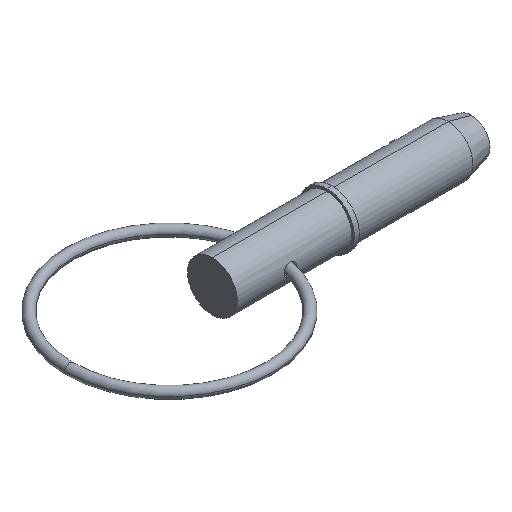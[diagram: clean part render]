
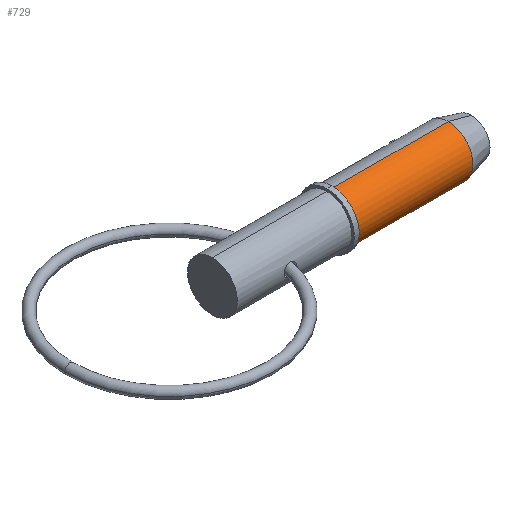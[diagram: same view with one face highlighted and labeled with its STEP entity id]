
A CAD part, isometric view. The second image highlights one B-rep face of the part: STEP entity #729.
In plain terms, the highlighted cylindrical face has radius 3.97 mm (diameter 7.94 mm), a partial arc.
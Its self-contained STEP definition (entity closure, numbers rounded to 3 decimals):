
#10 = AXIS2_PLACEMENT_3D ( 'NONE', #841, #904, #384 ) ;
#36 = DIRECTION ( 'NONE',  ( 1., 0., 0. ) ) ;
#46 = EDGE_CURVE ( 'NONE', #503, #685, #341, .T. ) ;
#90 = CARTESIAN_POINT ( 'NONE',  ( 0., 0., 3.97 ) ) ;
#134 = ORIENTED_EDGE ( 'NONE', *, *, #999, .F. ) ;
#148 = DIRECTION ( 'NONE',  ( 1., 0., 0. ) ) ;
#168 = DIRECTION ( 'NONE',  ( 1., 0., 0. ) ) ;
#201 = EDGE_LOOP ( 'NONE', ( #134, #239, #434, #834 ) ) ;
#239 = ORIENTED_EDGE ( 'NONE', *, *, #819, .T. ) ;
#258 = CYLINDRICAL_SURFACE ( 'NONE', #683, 3.97 ) ;
#306 = VECTOR ( 'NONE', #720, 1000. ) ;
#341 = CIRCLE ( 'NONE', #538, 3.97 ) ;
#354 = DIRECTION ( 'NONE',  ( 0., 0., -1. ) ) ;
#384 = DIRECTION ( 'NONE',  ( 0., 0., -1. ) ) ;
#394 = LINE ( 'NONE', #90, #306 ) ;
#395 = CARTESIAN_POINT ( 'NONE',  ( 37.576, 0., 3.97 ) ) ;
#408 = LINE ( 'NONE', #872, #435 ) ;
#434 = ORIENTED_EDGE ( 'NONE', *, *, #991, .T. ) ;
#435 = VECTOR ( 'NONE', #168, 1000. ) ;
#465 = DIRECTION ( 'NONE',  ( 0., 0., -1. ) ) ;
#503 = VERTEX_POINT ( 'NONE', #395 ) ;
#538 = AXIS2_PLACEMENT_3D ( 'NONE', #617, #148, #465 ) ;
#573 = CARTESIAN_POINT ( 'NONE',  ( 19.05, 0., -3.97 ) ) ;
#587 = VERTEX_POINT ( 'NONE', #573 ) ;
#617 = CARTESIAN_POINT ( 'NONE',  ( 37.576, 0., 0. ) ) ;
#683 = AXIS2_PLACEMENT_3D ( 'NONE', #888, #36, #354 ) ;
#685 = VERTEX_POINT ( 'NONE', #964 ) ;
#720 = DIRECTION ( 'NONE',  ( 1., 0., 0. ) ) ;
#722 = VERTEX_POINT ( 'NONE', #809 ) ;
#729 = ADVANCED_FACE ( 'NONE', ( #879 ), #258, .T. ) ;
#807 = CIRCLE ( 'NONE', #10, 3.97 ) ;
#809 = CARTESIAN_POINT ( 'NONE',  ( 19.05, 0., 3.97 ) ) ;
#819 = EDGE_CURVE ( 'NONE', #722, #587, #807, .T. ) ;
#834 = ORIENTED_EDGE ( 'NONE', *, *, #46, .F. ) ;
#841 = CARTESIAN_POINT ( 'NONE',  ( 19.05, 0., 0. ) ) ;
#872 = CARTESIAN_POINT ( 'NONE',  ( 0., 0., -3.97 ) ) ;
#879 = FACE_OUTER_BOUND ( 'NONE', #201, .T. ) ;
#888 = CARTESIAN_POINT ( 'NONE',  ( 0., 0., 0. ) ) ;
#904 = DIRECTION ( 'NONE',  ( 1., 0., 0. ) ) ;
#964 = CARTESIAN_POINT ( 'NONE',  ( 37.576, 0., -3.97 ) ) ;
#991 = EDGE_CURVE ( 'NONE', #587, #685, #408, .T. ) ;
#999 = EDGE_CURVE ( 'NONE', #722, #503, #394, .T. ) ;
